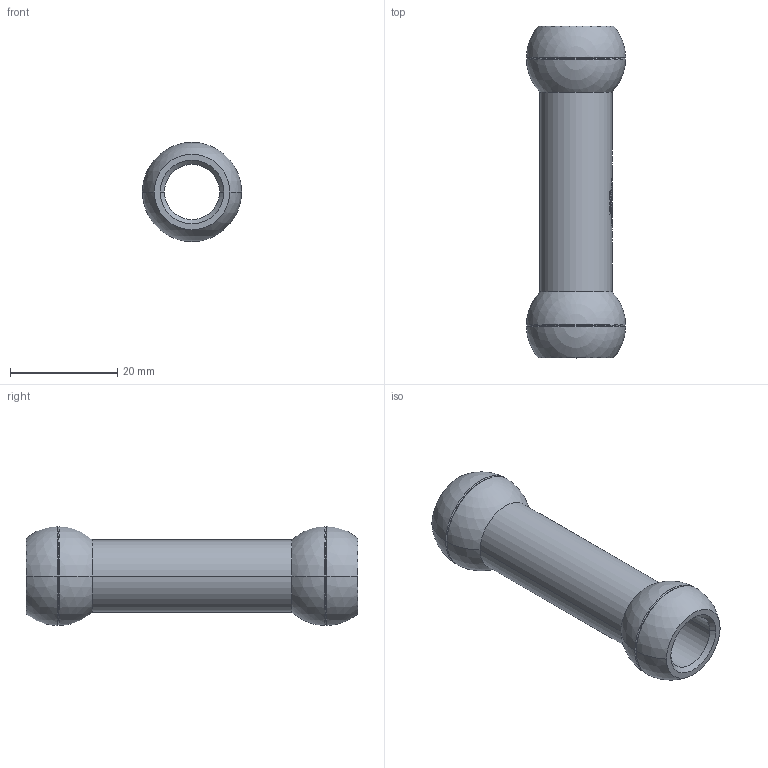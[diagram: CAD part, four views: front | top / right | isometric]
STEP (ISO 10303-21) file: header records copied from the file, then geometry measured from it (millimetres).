
FILE_DESCRIPTION (( 'STEP AP203' ), '1' );
FILE_NAME ('SLM-3-50XS.STEP', '2018-09-12T11:57:08', ( 'admin' ), ( '' ), 'SwSTEP 2.0', 'SolidWorks 2018', '' );
FILE_SCHEMA (( 'CONFIG_CONTROL_DESIGN' ));
Length unit declared in the file: inch
Products named in the file (1): SLM-3-50XS
Bounding box: 18.54 x 62 x 18.54 mm (x, y, z)
Volume: 5773.3 mm3; surface area: 5167.8 mm2
Topology: 1 solids, 1 shells, 139 faces, 1224 edges, 1136 vertices
Faces by surface type: cylinder 117, torus 8, sphere 8, cone 4, plane 2
Entity records: 13652 total; most frequent: CARTESIAN_POINT 5051, ORIENTED_EDGE 2448, EDGE_CURVE 1224, VERTEX_POINT 1136, DIRECTION 1125, B_SPLINE_CURVE_WITH_KNOTS 661, AXIS2_PLACEMENT_3D 422, CIRCLE 282
